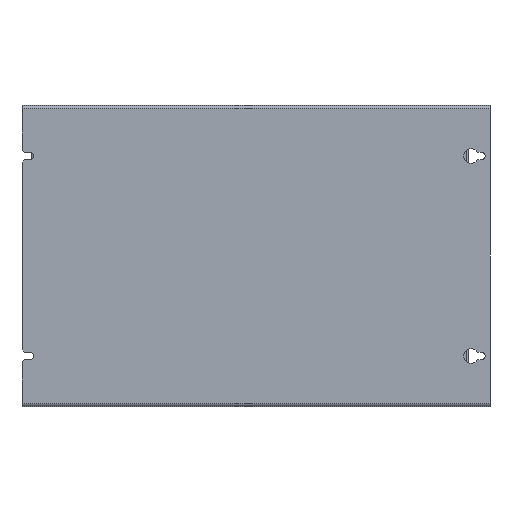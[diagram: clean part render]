
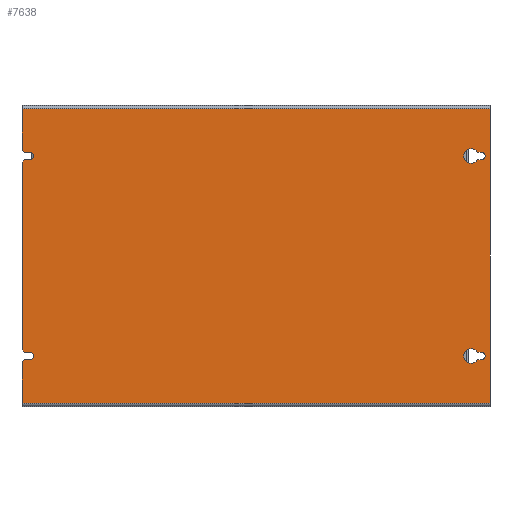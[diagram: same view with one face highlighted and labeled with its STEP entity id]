
A CAD part, left-side view. The second image highlights one B-rep face of the part: STEP entity #7638.
In plain terms, the highlighted planar face has unit normal (-1, 0, 0).
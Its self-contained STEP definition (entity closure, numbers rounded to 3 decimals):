
#1181=CARTESIAN_POINT('',(0.,-189.5,-88.));
#1182=DIRECTION('',(1.,0.,0.));
#1183=DIRECTION('',(0.,-0.866,-0.5));
#1184=AXIS2_PLACEMENT_3D('',#1181,#1182,#1183);
#1189=DIRECTION('',(0.,-1.,0.));
#1190=VECTOR('',#1189,3.371);
#1191=CARTESIAN_POINT('',(0.,-195.129,-91.25));
#1192=LINE('',#1191,#1190);
#1196=CARTESIAN_POINT('',(0.,-198.5,-88.));
#1197=DIRECTION('',(1.,0.,0.));
#1198=DIRECTION('',(0.,0.,1.));
#1199=AXIS2_PLACEMENT_3D('',#1196,#1197,#1198);
#1204=DIRECTION('',(0.,1.,0.));
#1205=VECTOR('',#1204,3.371);
#1206=CARTESIAN_POINT('',(0.,-198.5,-84.75));
#1207=LINE('',#1206,#1205);
#1211=DIRECTION('',(0.,-1.,0.));
#1212=VECTOR('',#1211,3.371);
#1213=CARTESIAN_POINT('',(0.,-195.129,84.75));
#1214=LINE('',#1213,#1212);
#1218=CARTESIAN_POINT('',(0.,-198.5,88.));
#1219=DIRECTION('',(1.,0.,0.));
#1220=DIRECTION('',(0.,0.,1.));
#1221=AXIS2_PLACEMENT_3D('',#1218,#1219,#1220);
#1226=DIRECTION('',(0.,1.,0.));
#1227=VECTOR('',#1226,3.371);
#1228=CARTESIAN_POINT('',(0.,-198.5,91.25));
#1229=LINE('',#1228,#1227);
#1233=CARTESIAN_POINT('',(0.,-189.5,88.));
#1234=DIRECTION('',(1.,0.,0.));
#1235=DIRECTION('',(0.,-0.866,-0.5));
#1236=AXIS2_PLACEMENT_3D('',#1233,#1234,#1235);
#1241=DIRECTION('',(0.,0.707,-0.707));
#1242=VECTOR('',#1241,2.828);
#1243=CARTESIAN_POINT('',(0.,204.,-91.25));
#1244=LINE('',#1243,#1242);
#1248=DIRECTION('',(0.,-1.,0.));
#1249=VECTOR('',#1248,5.);
#1250=CARTESIAN_POINT('',(0.,204.,-91.25));
#1251=LINE('',#1250,#1249);
#1255=CARTESIAN_POINT('',(0.,199.,-88.));
#1256=DIRECTION('',(1.,0.,0.));
#1257=DIRECTION('',(0.,0.,1.));
#1258=AXIS2_PLACEMENT_3D('',#1255,#1256,#1257);
#1263=DIRECTION('',(0.,-1.,0.));
#1264=VECTOR('',#1263,5.);
#1265=CARTESIAN_POINT('',(0.,204.,-84.75));
#1266=LINE('',#1265,#1264);
#1270=DIRECTION('',(0.,-0.707,-0.707));
#1271=VECTOR('',#1270,2.828);
#1272=CARTESIAN_POINT('',(0.,206.,-82.75));
#1273=LINE('',#1272,#1271);
#1277=DIRECTION('',(0.,0.707,-0.707));
#1278=VECTOR('',#1277,2.828);
#1279=CARTESIAN_POINT('',(0.,204.,84.75));
#1280=LINE('',#1279,#1278);
#1284=DIRECTION('',(0.,-1.,0.));
#1285=VECTOR('',#1284,5.);
#1286=CARTESIAN_POINT('',(0.,204.,84.75));
#1287=LINE('',#1286,#1285);
#1291=CARTESIAN_POINT('',(0.,199.,88.));
#1292=DIRECTION('',(1.,0.,0.));
#1293=DIRECTION('',(0.,0.,1.));
#1294=AXIS2_PLACEMENT_3D('',#1291,#1292,#1293);
#1299=DIRECTION('',(0.,-1.,0.));
#1300=VECTOR('',#1299,5.);
#1301=CARTESIAN_POINT('',(0.,204.,91.25));
#1302=LINE('',#1301,#1300);
#1306=DIRECTION('',(0.,-0.707,-0.707));
#1307=VECTOR('',#1306,2.828);
#1308=CARTESIAN_POINT('',(0.,206.,93.25));
#1309=LINE('',#1308,#1307);
#1313=DIRECTION('',(0.,-1.,0.));
#1314=VECTOR('',#1313,412.);
#1315=CARTESIAN_POINT('',(0.,206.,129.5));
#1316=LINE('',#1315,#1314);
#1320=DIRECTION('',(0.,-1.,0.));
#1321=VECTOR('',#1320,412.);
#1322=CARTESIAN_POINT('',(0.,206.,-129.5));
#1323=LINE('',#1322,#1321);
#1383=DIRECTION('',(0.,0.,1.));
#1384=VECTOR('',#1383,36.25);
#1385=CARTESIAN_POINT('',(0.,206.,-129.5));
#1386=LINE('',#1385,#1384);
#1453=DIRECTION('',(0.,0.,1.));
#1454=VECTOR('',#1453,165.5);
#1455=CARTESIAN_POINT('',(0.,206.,-82.75));
#1456=LINE('',#1455,#1454);
#1502=DIRECTION('',(0.,0.,1.));
#1503=VECTOR('',#1502,36.25);
#1504=CARTESIAN_POINT('',(0.,206.,93.25));
#1505=LINE('',#1504,#1503);
#3042=DIRECTION('',(0.,0.,1.));
#3043=VECTOR('',#3042,259.);
#3044=CARTESIAN_POINT('',(0.,-206.,-129.5));
#3045=LINE('',#3044,#3043);
#5699=CARTESIAN_POINT('',(0.,206.,129.5));
#5700=CARTESIAN_POINT('',(0.,-206.,129.5));
#5701=VERTEX_POINT('',#5699);
#5702=VERTEX_POINT('',#5700);
#5711=CARTESIAN_POINT('',(0.,206.,-129.5));
#5712=CARTESIAN_POINT('',(0.,-206.,-129.5));
#5713=VERTEX_POINT('',#5711);
#5714=VERTEX_POINT('',#5712);
#5739=CARTESIAN_POINT('',(0.,-195.129,-91.25));
#5740=CARTESIAN_POINT('',(0.,-195.129,-84.75));
#5741=VERTEX_POINT('',#5739);
#5742=VERTEX_POINT('',#5740);
#5747=CARTESIAN_POINT('',(0.,199.,-84.75));
#5748=CARTESIAN_POINT('',(0.,199.,-91.25));
#5749=VERTEX_POINT('',#5747);
#5750=VERTEX_POINT('',#5748);
#5751=CARTESIAN_POINT('',(0.,199.,91.25));
#5752=CARTESIAN_POINT('',(0.,199.,84.75));
#5753=VERTEX_POINT('',#5751);
#5754=VERTEX_POINT('',#5752);
#5979=CARTESIAN_POINT('',(0.,204.,-91.25));
#5980=CARTESIAN_POINT('',(0.,206.,-93.25));
#5981=VERTEX_POINT('',#5979);
#5982=VERTEX_POINT('',#5980);
#5987=CARTESIAN_POINT('',(0.,206.,-82.75));
#5988=CARTESIAN_POINT('',(0.,204.,-84.75));
#5989=VERTEX_POINT('',#5987);
#5990=VERTEX_POINT('',#5988);
#5995=CARTESIAN_POINT('',(0.,206.,93.25));
#5996=CARTESIAN_POINT('',(0.,204.,91.25));
#5997=VERTEX_POINT('',#5995);
#5998=VERTEX_POINT('',#5996);
#6003=CARTESIAN_POINT('',(0.,204.,84.75));
#6004=CARTESIAN_POINT('',(0.,206.,82.75));
#6005=VERTEX_POINT('',#6003);
#6006=VERTEX_POINT('',#6004);
#6459=CARTESIAN_POINT('',(0.,-198.5,-91.25));
#6460=VERTEX_POINT('',#6459);
#6461=CARTESIAN_POINT('',(0.,-198.5,-84.75));
#6462=VERTEX_POINT('',#6461);
#6463=CARTESIAN_POINT('',(0.,-195.129,84.75));
#6464=CARTESIAN_POINT('',(0.,-198.5,84.75));
#6465=VERTEX_POINT('',#6463);
#6466=VERTEX_POINT('',#6464);
#6467=CARTESIAN_POINT('',(0.,-198.5,91.25));
#6468=VERTEX_POINT('',#6467);
#6469=CARTESIAN_POINT('',(0.,-195.129,91.25));
#6470=VERTEX_POINT('',#6469);
#7581=CARTESIAN_POINT('',(0.,-206.,-132.5));
#7582=DIRECTION('',(-1.,0.,0.));
#7583=DIRECTION('',(0.,0.,1.));
#7584=AXIS2_PLACEMENT_3D('',#7581,#7582,#7583);
#7585=PLANE('',#7584);
#7587=ORIENTED_EDGE('',*,*,#7586,.F.);
#7589=ORIENTED_EDGE('',*,*,#7588,.T.);
#7591=ORIENTED_EDGE('',*,*,#7590,.F.);
#7593=ORIENTED_EDGE('',*,*,#7592,.F.);
#7595=ORIENTED_EDGE('',*,*,#7594,.F.);
#7597=ORIENTED_EDGE('',*,*,#7596,.T.);
#7599=ORIENTED_EDGE('',*,*,#7598,.F.);
#7601=ORIENTED_EDGE('',*,*,#7600,.T.);
#7603=ORIENTED_EDGE('',*,*,#7602,.F.);
#7605=ORIENTED_EDGE('',*,*,#7604,.F.);
#7607=ORIENTED_EDGE('',*,*,#7606,.F.);
#7609=ORIENTED_EDGE('',*,*,#7608,.T.);
#7611=ORIENTED_EDGE('',*,*,#7610,.T.);
#7613=ORIENTED_EDGE('',*,*,#7612,.F.);
#7614=ORIENTED_EDGE('',*,*,#7461,.F.);
#7616=ORIENTED_EDGE('',*,*,#7615,.T.);
#7617=EDGE_LOOP('',(#7587,#7589,#7591,#7593,#7595,#7597,#7599,#7601,#7603,#7605,
#7607,#7609,#7611,#7613,#7614,#7616));
#7618=FACE_OUTER_BOUND('',#7617,.F.);
#7619=ORIENTED_EDGE('',*,*,#7571,.T.);
#7621=ORIENTED_EDGE('',*,*,#7620,.F.);
#7623=ORIENTED_EDGE('',*,*,#7622,.T.);
#7625=ORIENTED_EDGE('',*,*,#7624,.F.);
#7626=EDGE_LOOP('',(#7619,#7621,#7623,#7625));
#7627=FACE_BOUND('',#7626,.F.);
#7629=ORIENTED_EDGE('',*,*,#7628,.F.);
#7631=ORIENTED_EDGE('',*,*,#7630,.T.);
#7633=ORIENTED_EDGE('',*,*,#7632,.F.);
#7635=ORIENTED_EDGE('',*,*,#7634,.T.);
#7636=EDGE_LOOP('',(#7629,#7631,#7633,#7635));
#7637=FACE_BOUND('',#7636,.F.);
#7638=ADVANCED_FACE('',(#7618,#7627,#7637),#7585,.T.);
#1185=CIRCLE('',#1184,6.5);
#1200=CIRCLE('',#1199,3.25);
#1222=CIRCLE('',#1221,3.25);
#1237=CIRCLE('',#1236,6.5);
#1259=CIRCLE('',#1258,3.25);
#1295=CIRCLE('',#1294,3.25);
#7461=EDGE_CURVE('',#5713,#5714,#1323,.T.);
#7571=EDGE_CURVE('',#6465,#6466,#1214,.T.);
#7586=EDGE_CURVE('',#5981,#5982,#1244,.T.);
#7588=EDGE_CURVE('',#5981,#5750,#1251,.T.);
#7590=EDGE_CURVE('',#5749,#5750,#1259,.T.);
#7592=EDGE_CURVE('',#5990,#5749,#1266,.T.);
#7594=EDGE_CURVE('',#5989,#5990,#1273,.T.);
#7596=EDGE_CURVE('',#5989,#6006,#1456,.T.);
#7598=EDGE_CURVE('',#6005,#6006,#1280,.T.);
#7600=EDGE_CURVE('',#6005,#5754,#1287,.T.);
#7602=EDGE_CURVE('',#5753,#5754,#1295,.T.);
#7604=EDGE_CURVE('',#5998,#5753,#1302,.T.);
#7606=EDGE_CURVE('',#5997,#5998,#1309,.T.);
#7608=EDGE_CURVE('',#5997,#5701,#1505,.T.);
#7610=EDGE_CURVE('',#5701,#5702,#1316,.T.);
#7612=EDGE_CURVE('',#5714,#5702,#3045,.T.);
#7615=EDGE_CURVE('',#5713,#5982,#1386,.T.);
#7620=EDGE_CURVE('',#6468,#6466,#1222,.T.);
#7622=EDGE_CURVE('',#6468,#6470,#1229,.T.);
#7624=EDGE_CURVE('',#6465,#6470,#1237,.T.);
#7628=EDGE_CURVE('',#5741,#5742,#1185,.T.);
#7630=EDGE_CURVE('',#5741,#6460,#1192,.T.);
#7632=EDGE_CURVE('',#6462,#6460,#1200,.T.);
#7634=EDGE_CURVE('',#6462,#5742,#1207,.T.);
